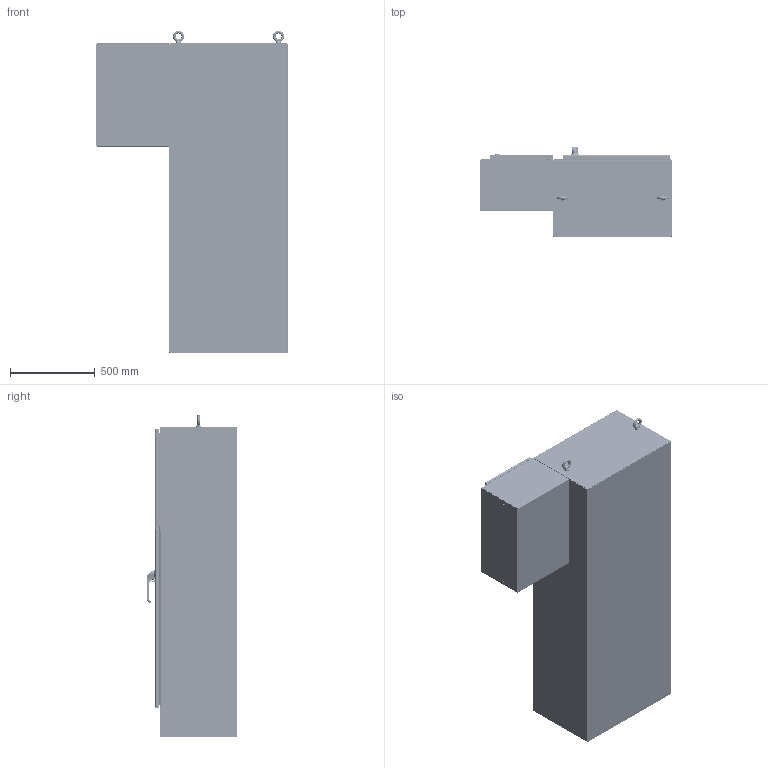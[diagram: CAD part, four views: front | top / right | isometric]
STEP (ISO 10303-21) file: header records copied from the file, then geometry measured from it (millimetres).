
FILE_DESCRIPTION((''),'2;1');
FILE_NAME('MODEL-429_ASM','2021-07-13T14:08:05',('JoshI'),('SAGINAW CONTROL & ENGINEERING'),'CREO PARAMETRIC BY PTC INC, 2017260','CREO PARAMETRIC BY PTC INC, 2017260','');
FILE_SCHEMA(('AUTOMOTIVE_DESIGN { 1 0 10303 214 1 1 1 1 }'));
Length unit declared in the file: inch
Products named in the file (84): MODEL-429-R-SD; MODEL-429-BTM; MODEL-429-TP; MODEL-429-L-SD; MODEL-429-DR; 100837; 111267; 100882; 100956_HANDLE; 100956_HANDLE_INSERT; 100956_SHAFT_CAM; 100956_ADAPTER_CAM; 100956_NUT_CAM; 100956_BASE; 100956_O-RING; 100956_WASHER_SEALING; 100956_NUT_MOUNTING_LARGE; 100956_NUT_MOUNTING_SMALL; 100956_SCREW_SMALL; 100956_PADLOCK_CATCH; 100956_STOP_CAM; 100956_ASM; 102237; 100030; 102237_ASM; MODEL-429-ROD-UPR; 128146; 128145; 128144; 102482; MODEL-429-ROD-UPR_ASM; 128143; 112504; MODEL-429-ROD-LWR; MODEL-429-ROD-LWR_ASM; MODEL-429-PR-GSKT; 128257; 126397; 128257_ASM; 126393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
Assembly tree (184 placements, depth 5):
  MODEL-429_ASM
    MODEL-429-R-SD
    MODEL-429-BTM
    MODEL-429-TP
    MODEL-429-L-SD
    MODEL-429-DOOR-ASSY_ASM
      MODEL-429-DR
      100837  x7
      111267
      100882  x12
      100956_ASM
        100956_HANDLE
        100956_HANDLE_INSERT
        100956_SHAFT_CAM
        100956_ADAPTER_CAM
        100956_NUT_CAM
        100956_BASE
        100956_O-RING
        100956_WASHER_SEALING
        100956_NUT_MOUNTING_LARGE
        100956_NUT_MOUNTING_SMALL
        100956_SCREW_SMALL
        100956_PADLOCK_CATCH
        100956_STOP_CAM
      102237_ASM
        102237
        100030  x2
      MODEL-429-ROD-UPR_ASM
        MODEL-429-ROD-UPR
        128146
        128145
        128144
        102482  x2
      128143  x2
      112504  x2
      MODEL-429-ROD-LWR_ASM
        MODEL-429-ROD-LWR
        128146
        128145
        128144
        102482  x2
      MODEL-429-PR-GSKT
      128257_ASM  x4
        128257
        126397
      126393  x4
      102483  x4
      101369_ASM  x4
        101369
        101369-STUD
      101221  x4
    100837  x2
    101653  x6
    MODEL-429-SUBPNL
    100904  x10
    102238  x2
    102254  x2
    MODEL-429-EBS  x2
    103300_ASM  x2
      100834
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Bounding box: 1130.3 x 534.57 x 1903.6 mm (x, y, z)
Volume: 23629210.2 mm3; surface area: 16107784.8 mm2
Topology: 179 solids, 179 shells, 14629 faces, 37853 edges, 23678 vertices
Faces by surface type: plane 5232, cylinder 3752, bspline 3501, torus 1050, cone 762, sphere 332
Entity records: 295989 total; most frequent: CARTESIAN_POINT 92659, ORIENTED_EDGE 29164, DIRECTION 27646, PRESENTATION_STYLE_ASSIGNMENT 15182, STYLED_ITEM 14803, EDGE_CURVE 14582, CURVE_STYLE 14408, AXIS2_PLACEMENT_3D 10246
